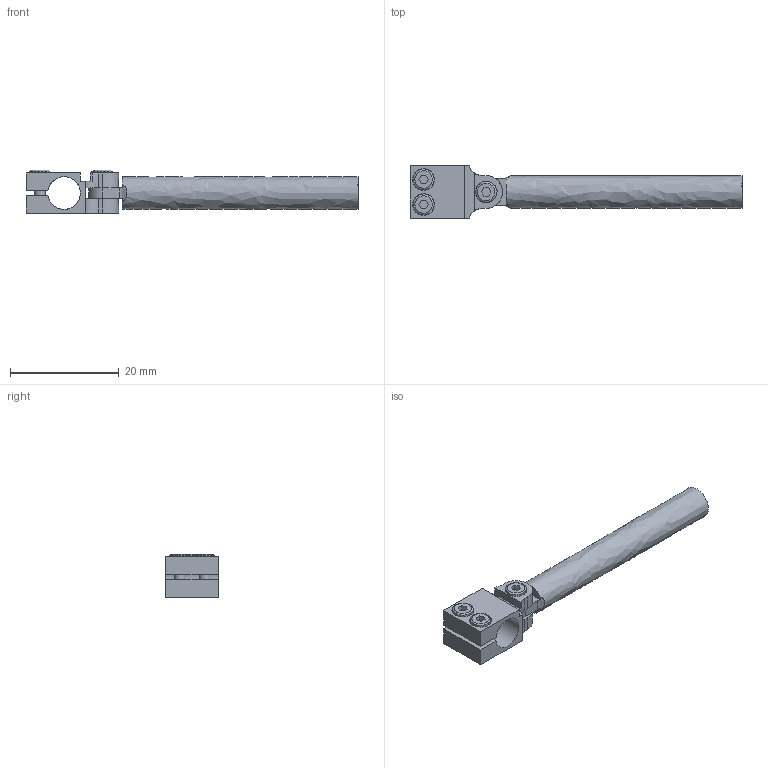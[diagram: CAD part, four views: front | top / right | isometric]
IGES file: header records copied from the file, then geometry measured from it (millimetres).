
Global section: file name: C30-RET-6; native system: Autodesk Inventor 2020; preprocessor: unknown; author: ma.tanaka; date: 20191023.191849; units: millimetre
Bounding box: 61 x 9.6 x 8 mm (x, y, z)
Volume: 1884.3 mm3; surface area: 1996.6 mm2
Topology: 1 solids, 1 shells, 87 faces, 220 edges, 147 vertices
Faces by surface type: bspline 87
